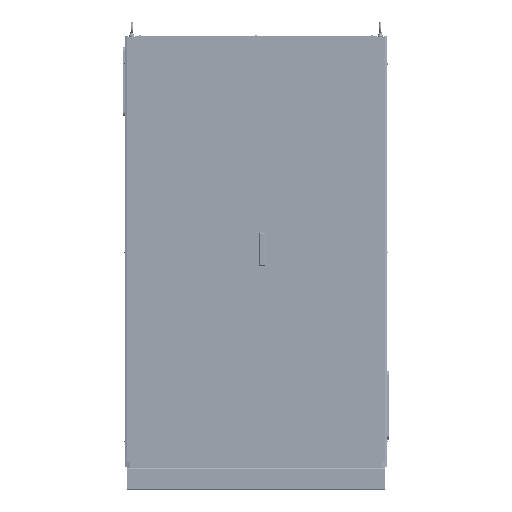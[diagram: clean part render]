
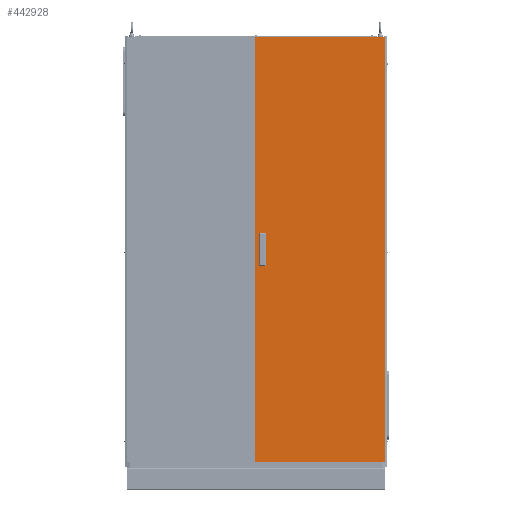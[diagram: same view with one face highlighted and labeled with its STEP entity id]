
A CAD part, top view. The second image highlights one B-rep face of the part: STEP entity #442928.
In plain terms, the highlighted planar face has unit normal (0, 0, 1).
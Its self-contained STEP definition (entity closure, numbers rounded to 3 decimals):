
#33101 = DIRECTION ( 'NONE',  ( 1., 0., 0. ) ) ;
#44592 = LINE ( 'NONE', #221821, #845002 ) ;
#55286 = CARTESIAN_POINT ( 'NONE',  ( -3., 1995., 300. ) ) ;
#56233 = LINE ( 'NONE', #780034, #238136 ) ;
#58286 = DIRECTION ( 'NONE',  ( 0., 1., 0. ) ) ;
#71204 = VERTEX_POINT ( 'NONE', #565807 ) ;
#79313 = LINE ( 'NONE', #944756, #261160 ) ;
#80331 = CARTESIAN_POINT ( 'NONE',  ( 597., 28., 300. ) ) ;
#81884 = DIRECTION ( 'NONE',  ( 0., -1., 0. ) ) ;
#86321 = ORIENTED_EDGE ( 'NONE', *, *, #642651, .T. ) ;
#102247 = CARTESIAN_POINT ( 'NONE',  ( 13.8, 933., 300. ) ) ;
#113286 = EDGE_CURVE ( 'NONE', #695159, #414109, #605078, .T. ) ;
#122410 = ORIENTED_EDGE ( 'NONE', *, *, #113286, .F. ) ;
#150130 = VECTOR ( 'NONE', #870431, 1000. ) ;
#150863 = EDGE_CURVE ( 'NONE', #151401, #71204, #56233, .T. ) ;
#151401 = VERTEX_POINT ( 'NONE', #788734 ) ;
#174395 = LINE ( 'NONE', #328056, #150130 ) ;
#196515 = VERTEX_POINT ( 'NONE', #80331 ) ;
#210398 = PLANE ( 'NONE',  #675969 ) ;
#216048 = EDGE_LOOP ( 'NONE', ( #122410, #749312, #86321, #515536 ) ) ;
#221821 = CARTESIAN_POINT ( 'NONE',  ( 44.2, 1011.5, 300. ) ) ;
#230645 = VECTOR ( 'NONE', #58286, 1000. ) ;
#238136 = VECTOR ( 'NONE', #81884, 1000. ) ;
#253393 = EDGE_CURVE ( 'NONE', #799130, #151401, #655697, .T. ) ;
#261160 = VECTOR ( 'NONE', #33101, 1000. ) ;
#285004 = CARTESIAN_POINT ( 'NONE',  ( 297., 1011.5, 300. ) ) ;
#288311 = DIRECTION ( 'NONE',  ( 1., 0., 0. ) ) ;
#296456 = EDGE_CURVE ( 'NONE', #196515, #799130, #363964, .T. ) ;
#314191 = CARTESIAN_POINT ( 'NONE',  ( 13.8, 1011.5, 300. ) ) ;
#328056 = CARTESIAN_POINT ( 'NONE',  ( -3., 28., 300. ) ) ;
#358988 = CARTESIAN_POINT ( 'NONE',  ( 44.2, 933., 300. ) ) ;
#363964 = LINE ( 'NONE', #444685, #230645 ) ;
#390410 = FACE_BOUND ( 'NONE', #216048, .T. ) ;
#399676 = EDGE_CURVE ( 'NONE', #71204, #196515, #174395, .T. ) ;
#414109 = VERTEX_POINT ( 'NONE', #102247 ) ;
#442928 = ADVANCED_FACE ( 'NONE', ( #778485, #390410 ), #210398, .T. ) ;
#444685 = CARTESIAN_POINT ( 'NONE',  ( 597., 1995., 300. ) ) ;
#515536 = ORIENTED_EDGE ( 'NONE', *, *, #578803, .F. ) ;
#533461 = DIRECTION ( 'NONE',  ( 0., -1., 0. ) ) ;
#547909 = DIRECTION ( 'NONE',  ( 0., -1., 0. ) ) ;
#549558 = LINE ( 'NONE', #918636, #937920 ) ;
#550330 = VERTEX_POINT ( 'NONE', #754107 ) ;
#565807 = CARTESIAN_POINT ( 'NONE',  ( -3., 28., 300. ) ) ;
#578803 = EDGE_CURVE ( 'NONE', #414109, #958443, #79313, .T. ) ;
#605078 = LINE ( 'NONE', #314191, #786966 ) ;
#638582 = ORIENTED_EDGE ( 'NONE', *, *, #150863, .T. ) ;
#642651 = EDGE_CURVE ( 'NONE', #550330, #958443, #44592, .T. ) ;
#655697 = LINE ( 'NONE', #55286, #862018 ) ;
#675969 = AXIS2_PLACEMENT_3D ( 'NONE', #285004, #752672, #288311 ) ;
#695159 = VERTEX_POINT ( 'NONE', #838190 ) ;
#721308 = ORIENTED_EDGE ( 'NONE', *, *, #253393, .T. ) ;
#732868 = EDGE_CURVE ( 'NONE', #695159, #550330, #549558, .T. ) ;
#749312 = ORIENTED_EDGE ( 'NONE', *, *, #732868, .T. ) ;
#752672 = DIRECTION ( 'NONE',  ( 0., 0., 1. ) ) ;
#754107 = CARTESIAN_POINT ( 'NONE',  ( 44.2, 1090., 300. ) ) ;
#778485 = FACE_OUTER_BOUND ( 'NONE', #880336, .T. ) ;
#780034 = CARTESIAN_POINT ( 'NONE',  ( -3., 1995., 300. ) ) ;
#786966 = VECTOR ( 'NONE', #547909, 1000. ) ;
#788734 = CARTESIAN_POINT ( 'NONE',  ( -3., 1995., 300. ) ) ;
#799130 = VERTEX_POINT ( 'NONE', #827255 ) ;
#827255 = CARTESIAN_POINT ( 'NONE',  ( 597., 1995., 300. ) ) ;
#838190 = CARTESIAN_POINT ( 'NONE',  ( 13.8, 1090., 300. ) ) ;
#845002 = VECTOR ( 'NONE', #533461, 1000. ) ;
#849711 = ORIENTED_EDGE ( 'NONE', *, *, #399676, .T. ) ;
#862018 = VECTOR ( 'NONE', #984043, 1000. ) ;
#870431 = DIRECTION ( 'NONE',  ( 1., 0., 0. ) ) ;
#880336 = EDGE_LOOP ( 'NONE', ( #979943, #721308, #638582, #849711 ) ) ;
#918636 = CARTESIAN_POINT ( 'NONE',  ( 13.8, 1090., 300. ) ) ;
#937920 = VECTOR ( 'NONE', #996470, 1000. ) ;
#944756 = CARTESIAN_POINT ( 'NONE',  ( 13.8, 933., 300. ) ) ;
#958443 = VERTEX_POINT ( 'NONE', #358988 ) ;
#979943 = ORIENTED_EDGE ( 'NONE', *, *, #296456, .T. ) ;
#984043 = DIRECTION ( 'NONE',  ( -1., 0., 0. ) ) ;
#996470 = DIRECTION ( 'NONE',  ( 1., 0., 0. ) ) ;
